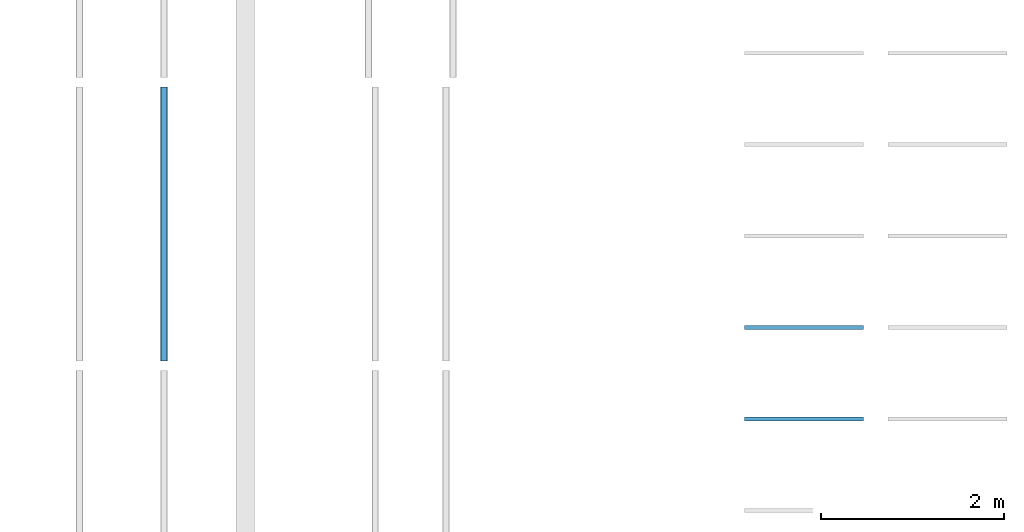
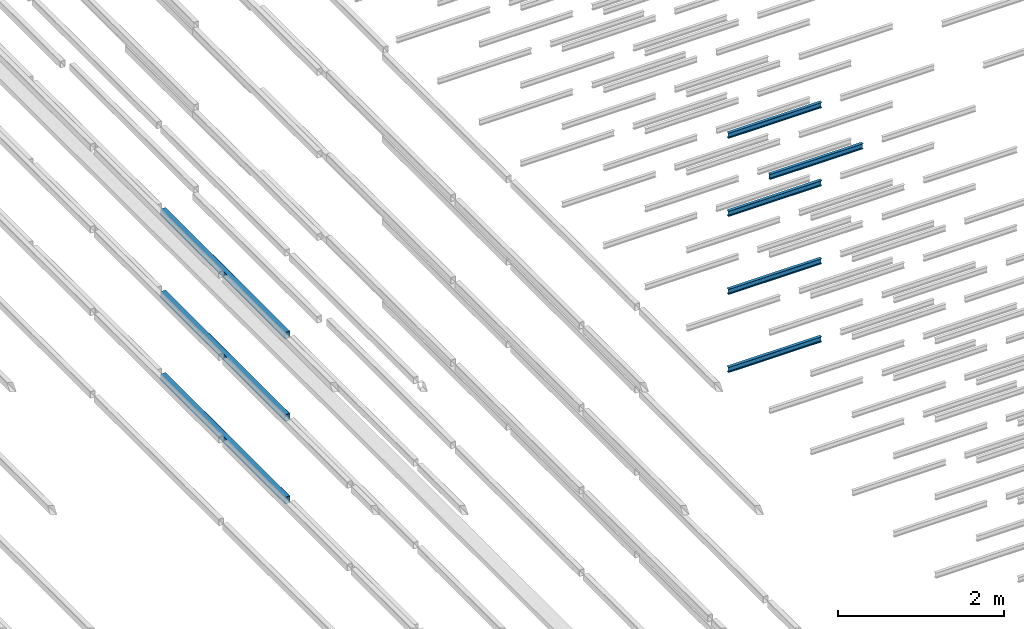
# One storey, part 91 of 290: 8 beams.
"""IFC2X3 building model written with IfcOpenShell, lengths in metres."""

from ifc_helpers import new_model, entity, si_unit, converted_unit, derived_unit, direction, frame, frame_2d, origin, place, context, subcontext, project, spatial, polyline, circle_curve, parameter, trimmed, segment, composite_curve, outline, extrude, material, type_object, element, save


model = new_model("IFC2X3")

# Units and contexts
model_context = context("Model", 3, precision=1e-05, world=origin(), true_north=direction((6.12303176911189e-17, 1.0)))
body_context = subcontext(model_context, "Body", "Model", "MODEL_VIEW")
ifc_project = project(units=[si_unit("LENGTHUNIT", "METRE"), si_unit("AREAUNIT", "SQUARE_METRE"), si_unit("VOLUMEUNIT", "CUBIC_METRE"), converted_unit("PLANEANGLEUNIT", "DEGREE", entity("IfcRatioMeasure", 0.0174532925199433), si_unit("PLANEANGLEUNIT", "RADIAN"), dimensions=[0, 0, 0, 0, 0, 0, 0]), si_unit("MASSUNIT", "GRAM", prefix="KILO"), derived_unit("MASSDENSITYUNIT", [(si_unit("MASSUNIT", "GRAM", prefix="KILO"), 1), (si_unit("LENGTHUNIT", "METRE"), -3)]), derived_unit("MOMENTOFINERTIAUNIT", [(si_unit("LENGTHUNIT", "METRE"), 4)]), si_unit("TIMEUNIT", "SECOND"), si_unit("FREQUENCYUNIT", "HERTZ"), si_unit("THERMODYNAMICTEMPERATUREUNIT", "DEGREE_CELSIUS"), derived_unit("THERMALTRANSMITTANCEUNIT", [(si_unit("MASSUNIT", "GRAM", prefix="KILO"), 1), (si_unit("THERMODYNAMICTEMPERATUREUNIT", "KELVIN"), -1), (si_unit("TIMEUNIT", "SECOND"), -3)]), derived_unit("VOLUMETRICFLOWRATEUNIT", [(si_unit("LENGTHUNIT", "METRE"), 3), (si_unit("TIMEUNIT", "SECOND"), -1)]), si_unit("ELECTRICCURRENTUNIT", "AMPERE"), si_unit("ELECTRICVOLTAGEUNIT", "VOLT"), si_unit("POWERUNIT", "WATT"), si_unit("FORCEUNIT", "NEWTON", prefix="KILO"), si_unit("ILLUMINANCEUNIT", "LUX"), si_unit("LUMINOUSFLUXUNIT", "LUMEN"), si_unit("LUMINOUSINTENSITYUNIT", "CANDELA"), derived_unit("USERDEFINED", [(si_unit("MASSUNIT", "GRAM", prefix="KILO"), -1), (si_unit("LENGTHUNIT", "METRE"), -2), (si_unit("TIMEUNIT", "SECOND"), 3), (si_unit("LUMINOUSFLUXUNIT", "LUMEN"), 1)]), derived_unit("LINEARVELOCITYUNIT", [(si_unit("LENGTHUNIT", "METRE"), 1), (si_unit("TIMEUNIT", "SECOND"), -1)]), si_unit("PRESSUREUNIT", "PASCAL"), derived_unit("USERDEFINED", [(si_unit("LENGTHUNIT", "METRE"), -2), (si_unit("MASSUNIT", "GRAM", prefix="KILO"), 1), (si_unit("TIMEUNIT", "SECOND"), -2)]), derived_unit("LINEARFORCEUNIT", [(si_unit("MASSUNIT", "GRAM", prefix="KILO"), 1), (si_unit("LENGTHUNIT", "METRE"), 1), (si_unit("TIMEUNIT", "SECOND"), -2), (si_unit("LENGTHUNIT", "METRE"), -1)]), derived_unit("PLANARFORCEUNIT", [(si_unit("MASSUNIT", "GRAM", prefix="KILO"), 1), (si_unit("LENGTHUNIT", "METRE"), 1), (si_unit("TIMEUNIT", "SECOND"), -2), (si_unit("LENGTHUNIT", "METRE"), -2)])], contexts=[model_context])

# Site, building, storey
site_placement = place(None, origin())
site = spatial("IfcSite", under=ifc_project, at=site_placement, Name="Default", CompositionType="ELEMENT")
building_placement = place(site_placement, origin())
building = spatial("IfcBuilding", under=site, at=building_placement, CompositionType="ELEMENT")
storey_placement = place(building_placement, frame((0.0, 0.0, 4.0)))
storey = spatial("IfcBuildingStorey", under=building, at=storey_placement, Name="01_OG", CompositionType="ELEMENT", Elevation=4.0)

# Beams
ifc_material_1 = material(Name="Metall - Baustahl S235 blau")
beam_type_1 = type_object("IfcBeamType", Name="RHS Träger (EN 10219-2):RHS 100 x 75 x 5", PredefinedType="NOTDEFINED")
beam_1_placement = place(storey_placement, frame((-178.465111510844, 42.6480889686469, -1.2), z_axis=(0.0, 0.0, 1.0), x_axis=(0.0, 1.0, 0.0)))
element("IfcBeam", 1, at=beam_1_placement, inside=storey, type_object=beam_type_1, material=ifc_material_1, Name="RHS Träger (EN 10219-2):RHS 100 x 75 x 5", ObjectType="RHS Träger (EN 10219-2):RHS 100 x 75 x 5", context=body_context, shape_type="SweptSolid", body=[
    extrude(outline(composite_curve([segment(polyline([(-0.0400000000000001, -0.0374999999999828), (0.0400000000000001, -0.0374999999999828)]), True, "CONTINUOUS"), segment(trimmed(circle_curve(frame_2d((0.0400000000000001, -0.0274999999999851), x_axis=(0.0, 1.0)), 0.01), [parameter(180.0)], [parameter(270.0)], True, "PARAMETER"), True, "CONTINUOUS"), segment(polyline([(0.05, -0.0274999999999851), (0.05, 0.0274999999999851)]), True, "CONTINUOUS"), segment(trimmed(circle_curve(frame_2d((0.0400000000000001, 0.0274999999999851), x_axis=(0.0, 1.0)), 0.01), [parameter(270.0)], [parameter(4.07110999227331e-13)], True, "PARAMETER"), True, "CONTINUOUS"), segment(polyline([(0.0400000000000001, 0.0375000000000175), (-0.0400000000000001, 0.0375000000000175)]), True, "CONTINUOUS"), segment(trimmed(circle_curve(frame_2d((-0.0400000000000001, 0.0274999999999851), x_axis=(0.0, 1.0)), 0.01), [parameter(360.0)], [parameter(90.0000000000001)], True, "PARAMETER"), True, "CONTINUOUS"), segment(polyline([(-0.05, 0.0274999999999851), (-0.05, -0.0274999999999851)]), True, "CONTINUOUS"), segment(trimmed(circle_curve(frame_2d((-0.0400000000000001, -0.0274999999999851), x_axis=(0.0, 1.0)), 0.01), [parameter(90.0000000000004)], [parameter(180.0)], True, "PARAMETER"), True, "CONTINUOUS")], self_intersect=False), holes=[composite_curve([segment(trimmed(circle_curve(frame_2d((-0.0400000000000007, 0.0274999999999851), x_axis=(0.0, 1.0)), 0.005), [parameter(360.0)], [parameter(89.9999999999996)], True, "PARAMETER"), False, "CONTINUOUS"), segment(polyline([(-0.0400000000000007, 0.0325000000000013), (0.039999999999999, 0.0325000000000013)]), True, "CONTINUOUS"), segment(trimmed(circle_curve(frame_2d((0.039999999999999, 0.0274999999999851), x_axis=(0.0, 1.0)), 0.005), [parameter(270.0)], [parameter(0.0)], True, "PARAMETER"), False, "CONTINUOUS"), segment(polyline([(0.044999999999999, 0.0274999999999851), (0.044999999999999, -0.0274999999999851)]), True, "CONTINUOUS"), segment(trimmed(circle_curve(frame_2d((0.039999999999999, -0.0274999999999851), x_axis=(0.0, 1.0)), 0.005), [parameter(180.0)], [parameter(269.999999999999)], True, "PARAMETER"), False, "CONTINUOUS"), segment(polyline([(0.039999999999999, -0.0325000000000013), (-0.0400000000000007, -0.0325000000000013)]), True, "CONTINUOUS"), segment(trimmed(circle_curve(frame_2d((-0.0400000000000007, -0.0274999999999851), x_axis=(0.0, 1.0)), 0.005), [parameter(90.0000000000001)], [parameter(180.0)], True, "PARAMETER"), False, "CONTINUOUS"), segment(polyline([(-0.0450000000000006, -0.0274999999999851), (-0.0450000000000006, 0.0274999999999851)]), True, "CONTINUOUS")], self_intersect=False)]), frame((0.000100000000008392, -0.0375000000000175, -0.0500000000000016), z_axis=(1.0, 0.0, 0.0), x_axis=(0.0, 0.0, -1.0)), (0.0, 0.0, 1.0), 2.99979999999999),
])
beam_2_placement = place(storey_placement, frame((-178.465111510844, 42.6480889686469, 0.0150000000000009), z_axis=(0.0, 0.0, 1.0), x_axis=(0.0, 1.0, 0.0)))
element("IfcBeam", 2, at=beam_2_placement, inside=storey, type_object=beam_type_1, material=ifc_material_1, Name="RHS Träger (EN 10219-2):RHS 100 x 75 x 5", ObjectType="RHS Träger (EN 10219-2):RHS 100 x 75 x 5", context=body_context, shape_type="SweptSolid", body=[
    extrude(outline(composite_curve([segment(polyline([(-0.0400000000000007, -0.0374999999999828), (0.0399999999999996, -0.0374999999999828)]), True, "CONTINUOUS"), segment(trimmed(circle_curve(frame_2d((0.0399999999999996, -0.0274999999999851), x_axis=(0.0, 1.0)), 0.01), [parameter(180.0)], [parameter(270.0)], True, "PARAMETER"), True, "CONTINUOUS"), segment(polyline([(0.0499999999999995, -0.0274999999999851), (0.0499999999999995, 0.0274999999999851)]), True, "CONTINUOUS"), segment(trimmed(circle_curve(frame_2d((0.0399999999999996, 0.0274999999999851), x_axis=(0.0, 1.0)), 0.01), [parameter(270.0)], [parameter(4.07110999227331e-13)], True, "PARAMETER"), True, "CONTINUOUS"), segment(polyline([(0.0399999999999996, 0.0375000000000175), (-0.0400000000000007, 0.0375000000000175)]), True, "CONTINUOUS"), segment(trimmed(circle_curve(frame_2d((-0.0400000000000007, 0.0274999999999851), x_axis=(0.0, 1.0)), 0.01), [parameter(360.0)], [parameter(90.0000000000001)], True, "PARAMETER"), True, "CONTINUOUS"), segment(polyline([(-0.0500000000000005, 0.0274999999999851), (-0.0500000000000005, -0.0274999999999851)]), True, "CONTINUOUS"), segment(trimmed(circle_curve(frame_2d((-0.0400000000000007, -0.0274999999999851), x_axis=(0.0, 1.0)), 0.01), [parameter(90.0000000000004)], [parameter(180.0)], True, "PARAMETER"), True, "CONTINUOUS")], self_intersect=False), holes=[composite_curve([segment(trimmed(circle_curve(frame_2d((-0.0400000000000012, 0.0274999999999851), x_axis=(0.0, 1.0)), 0.005), [parameter(360.0)], [parameter(89.9999999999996)], True, "PARAMETER"), False, "CONTINUOUS"), segment(polyline([(-0.0400000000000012, 0.0325000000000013), (0.0399999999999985, 0.0325000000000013)]), True, "CONTINUOUS"), segment(trimmed(circle_curve(frame_2d((0.0399999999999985, 0.0274999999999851), x_axis=(0.0, 1.0)), 0.005), [parameter(270.0)], [parameter(0.0)], True, "PARAMETER"), False, "CONTINUOUS"), segment(polyline([(0.0449999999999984, 0.0274999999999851), (0.0449999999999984, -0.0274999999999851)]), True, "CONTINUOUS"), segment(trimmed(circle_curve(frame_2d((0.0399999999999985, -0.0274999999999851), x_axis=(0.0, 1.0)), 0.005), [parameter(180.0)], [parameter(269.999999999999)], True, "PARAMETER"), False, "CONTINUOUS"), segment(polyline([(0.0399999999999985, -0.0325000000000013), (-0.0400000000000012, -0.0325000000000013)]), True, "CONTINUOUS"), segment(trimmed(circle_curve(frame_2d((-0.0400000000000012, -0.0274999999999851), x_axis=(0.0, 1.0)), 0.005), [parameter(90.0000000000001)], [parameter(180.0)], True, "PARAMETER"), False, "CONTINUOUS"), segment(polyline([(-0.0450000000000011, -0.0274999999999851), (-0.0450000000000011, 0.0274999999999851)]), True, "CONTINUOUS")], self_intersect=False)]), frame((0.000100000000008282, -0.0375000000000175, -0.0500000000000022), z_axis=(1.0, 0.0, 0.0), x_axis=(0.0, 0.0, -1.0)), (0.0, 0.0, 1.0), 2.99979999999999),
])
beam_3_placement = place(storey_placement, frame((-178.465111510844, 42.6480889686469, 1.23), z_axis=(0.0, 0.0, 1.0), x_axis=(0.0, 1.0, 0.0)))
element("IfcBeam", 3, at=beam_3_placement, inside=storey, type_object=beam_type_1, material=ifc_material_1, Name="RHS Träger (EN 10219-2):RHS 100 x 75 x 5", ObjectType="RHS Träger (EN 10219-2):RHS 100 x 75 x 5", context=body_context, shape_type="SweptSolid", body=[
    extrude(outline(composite_curve([segment(polyline([(-0.0399999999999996, -0.0374999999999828), (0.0399999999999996, -0.0374999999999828)]), True, "CONTINUOUS"), segment(trimmed(circle_curve(frame_2d((0.0399999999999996, -0.0274999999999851), x_axis=(0.0, 1.0)), 0.01), [parameter(180.0)], [parameter(270.0)], True, "PARAMETER"), True, "CONTINUOUS"), segment(polyline([(0.0500000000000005, -0.0274999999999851), (0.0500000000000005, 0.0274999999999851)]), True, "CONTINUOUS"), segment(trimmed(circle_curve(frame_2d((0.0399999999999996, 0.0274999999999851), x_axis=(0.0, 1.0)), 0.01), [parameter(270.0)], [parameter(4.07110999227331e-13)], True, "PARAMETER"), True, "CONTINUOUS"), segment(polyline([(0.0399999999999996, 0.0375000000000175), (-0.0399999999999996, 0.0375000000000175)]), True, "CONTINUOUS"), segment(trimmed(circle_curve(frame_2d((-0.0399999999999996, 0.0274999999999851), x_axis=(0.0, 1.0)), 0.01), [parameter(360.0)], [parameter(90.0000000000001)], True, "PARAMETER"), True, "CONTINUOUS"), segment(polyline([(-0.0499999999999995, 0.0274999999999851), (-0.0499999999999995, -0.0274999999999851)]), True, "CONTINUOUS"), segment(trimmed(circle_curve(frame_2d((-0.0399999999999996, -0.0274999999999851), x_axis=(0.0, 1.0)), 0.01), [parameter(90.0000000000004)], [parameter(180.0)], True, "PARAMETER"), True, "CONTINUOUS")], self_intersect=False), holes=[composite_curve([segment(trimmed(circle_curve(frame_2d((-0.0400000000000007, 0.0274999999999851), x_axis=(0.0, 1.0)), 0.005), [parameter(360.0)], [parameter(89.9999999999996)], True, "PARAMETER"), False, "CONTINUOUS"), segment(polyline([(-0.0400000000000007, 0.0325000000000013), (0.0399999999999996, 0.0325000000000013)]), True, "CONTINUOUS"), segment(trimmed(circle_curve(frame_2d((0.0399999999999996, 0.0274999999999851), x_axis=(0.0, 1.0)), 0.005), [parameter(270.0)], [parameter(0.0)], True, "PARAMETER"), False, "CONTINUOUS"), segment(polyline([(0.0449999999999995, 0.0274999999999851), (0.0449999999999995, -0.0274999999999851)]), True, "CONTINUOUS"), segment(trimmed(circle_curve(frame_2d((0.0399999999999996, -0.0274999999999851), x_axis=(0.0, 1.0)), 0.005), [parameter(180.0)], [parameter(269.999999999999)], True, "PARAMETER"), False, "CONTINUOUS"), segment(polyline([(0.0399999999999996, -0.0325000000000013), (-0.0400000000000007, -0.0325000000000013)]), True, "CONTINUOUS"), segment(trimmed(circle_curve(frame_2d((-0.0400000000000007, -0.0274999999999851), x_axis=(0.0, 1.0)), 0.005), [parameter(90.0000000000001)], [parameter(180.0)], True, "PARAMETER"), False, "CONTINUOUS"), segment(polyline([(-0.0450000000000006, -0.0274999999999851), (-0.0450000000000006, 0.0274999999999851)]), True, "CONTINUOUS")], self_intersect=False)]), frame((0.000100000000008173, -0.0375000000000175, -0.0500000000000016), z_axis=(1.0, 0.0, 0.0), x_axis=(0.0, 0.0, -1.0)), (0.0, 0.0, 1.0), 2.99979999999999),
])
ifc_material_2 = material(Name="Metall - Baustahl S235")
beam_type_2 = type_object("IfcBeamType", Name="IPN Träger:IPN 80", PredefinedType="NOTDEFINED")
beam_4_placement = place(storey_placement, frame((-170.780111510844, 43.0365889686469, -1.73), z_axis=(0.0, 0.0, 1.0), x_axis=(-1.0, 0.0, 0.0)))
element("IfcBeam", 4, at=beam_4_placement, inside=storey, type_object=beam_type_2, material=ifc_material_2, Name="IPN Träger:IPN 80", ObjectType="IPN Träger:IPN 80", context=body_context, shape_type="SweptSolid", body=[
    extrude(outline(composite_curve([segment(polyline([(0.0375704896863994, -0.0209999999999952), (0.0399999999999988, -0.0209999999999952)]), True, "CONTINUOUS"), segment(polyline([(0.0399999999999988, -0.0209999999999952), (0.0399999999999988, 0.0210000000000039)]), True, "CONTINUOUS"), segment(polyline([(0.0399999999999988, 0.0210000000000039), (0.0375704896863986, 0.0210000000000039)]), True, "CONTINUOUS"), segment(trimmed(circle_curve(frame_2d((0.0375704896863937, 0.0187000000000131), x_axis=(0.0, 1.0)), 0.0022999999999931), [parameter(0.0)], [parameter(82.030000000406)], True, "PARAMETER"), True, "CONTINUOUS"), segment(polyline([(0.0352927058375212, 0.0190189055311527), (0.0333732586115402, 0.0053092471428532)]), True, "CONTINUOUS"), segment(trimmed(circle_curve(frame_2d((0.0295109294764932, 0.005850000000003), x_axis=(0.99034080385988, -0.138654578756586)), 0.0038999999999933), [parameter(277.96999999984)], [parameter(0.0)], True, "PARAMETER"), False, "CONTINUOUS"), segment(polyline([(0.0295109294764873, 0.00195000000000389), (-0.0295109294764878, 0.00195000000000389)]), True, "CONTINUOUS"), segment(trimmed(circle_curve(frame_2d((-0.0295109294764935, 0.005850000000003), x_axis=(0.0, -1.0)), 0.0038999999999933), [parameter(277.96999999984)], [parameter(0.0)], True, "PARAMETER"), False, "CONTINUOUS"), segment(polyline([(-0.033373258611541, 0.0053092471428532), (-0.0352927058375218, 0.0190189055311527)]), True, "CONTINUOUS"), segment(trimmed(circle_curve(frame_2d((-0.0375704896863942, 0.0187000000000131), x_axis=(0.990340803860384, 0.138654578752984)), 0.00229999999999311), [parameter(0.0)], [parameter(82.030000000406)], True, "PARAMETER"), True, "CONTINUOUS"), segment(polyline([(-0.0375704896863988, 0.0210000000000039), (-0.0400000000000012, 0.0210000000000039)]), True, "CONTINUOUS"), segment(polyline([(-0.0400000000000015, 0.0210000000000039), (-0.0400000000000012, -0.0209999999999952)]), True, "CONTINUOUS"), segment(polyline([(-0.0400000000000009, -0.0209999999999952), (-0.0375704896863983, -0.0209999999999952)]), True, "CONTINUOUS"), segment(trimmed(circle_curve(frame_2d((-0.0375704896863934, -0.0186999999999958), x_axis=(0.0, -1.0)), 0.0022999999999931), [parameter(0.0)], [parameter(82.030000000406)], True, "PARAMETER"), True, "CONTINUOUS"), segment(polyline([(-0.0352927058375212, -0.0190189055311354), (-0.0333732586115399, -0.00530924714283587)]), True, "CONTINUOUS"), segment(trimmed(circle_curve(frame_2d((-0.0295109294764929, -0.00584999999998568), x_axis=(-0.99034080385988, 0.138654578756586)), 0.0038999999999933), [parameter(277.96999999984)], [parameter(0.0)], True, "PARAMETER"), False, "CONTINUOUS"), segment(polyline([(-0.0295109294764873, -0.00194999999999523), (0.0295109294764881, -0.00194999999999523)]), True, "CONTINUOUS"), segment(trimmed(circle_curve(frame_2d((0.029510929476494, -0.00584999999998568), x_axis=(0.0, 1.0)), 0.00389999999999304), [parameter(277.969999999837)], [parameter(0.0)], True, "PARAMETER"), False, "CONTINUOUS"), segment(polyline([(0.033373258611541, -0.00530924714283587), (0.0352927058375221, -0.0190189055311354)]), True, "CONTINUOUS"), segment(trimmed(circle_curve(frame_2d((0.0375704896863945, -0.0186999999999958), x_axis=(-0.990340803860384, -0.138654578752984)), 0.0022999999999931), [parameter(0.0)], [parameter(82.030000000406)], True, "PARAMETER"), True, "CONTINUOUS")], self_intersect=False)), frame((0.00010000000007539, 0.0209999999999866, -0.0400000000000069), z_axis=(1.0, 0.0, 0.0), x_axis=(0.0, 0.0, -1.0)), (0.0, 0.0, 1.0), 1.29990000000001),
])
beam_5_placement = place(storey_placement, frame((-170.780111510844, 43.0365889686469, -0.579999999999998), z_axis=(0.0, 0.0, 1.0), x_axis=(-1.0, 0.0, 0.0)))
element("IfcBeam", 5, at=beam_5_placement, inside=storey, type_object=beam_type_2, material=ifc_material_2, Name="IPN Träger:IPN 80", ObjectType="IPN Träger:IPN 80", context=body_context, shape_type="SweptSolid", body=[
    extrude(outline(composite_curve([segment(polyline([(0.0375704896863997, -0.0209999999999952), (0.039999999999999, -0.0209999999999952)]), True, "CONTINUOUS"), segment(polyline([(0.039999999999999, -0.0209999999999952), (0.039999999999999, 0.0210000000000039)]), True, "CONTINUOUS"), segment(polyline([(0.039999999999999, 0.0210000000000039), (0.0375704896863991, 0.0210000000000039)]), True, "CONTINUOUS"), segment(trimmed(circle_curve(frame_2d((0.0375704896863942, 0.0187000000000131), x_axis=(0.0, 1.0)), 0.00229999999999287), [parameter(0.0)], [parameter(82.0300000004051)], True, "PARAMETER"), True, "CONTINUOUS"), segment(polyline([(0.0352927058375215, 0.0190189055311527), (0.0333732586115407, 0.0053092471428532)]), True, "CONTINUOUS"), segment(trimmed(circle_curve(frame_2d((0.029510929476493, 0.005850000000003), x_axis=(0.99034080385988, -0.138654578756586)), 0.00389999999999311), [parameter(277.969999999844)], [parameter(0.0)], True, "PARAMETER"), False, "CONTINUOUS"), segment(polyline([(0.0295109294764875, 0.00195000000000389), (-0.0295109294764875, 0.00195000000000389)]), True, "CONTINUOUS"), segment(trimmed(circle_curve(frame_2d((-0.0295109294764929, 0.005850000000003), x_axis=(0.0, -1.0)), 0.00389999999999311), [parameter(277.969999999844)], [parameter(0.0)], True, "PARAMETER"), False, "CONTINUOUS"), segment(polyline([(-0.0333732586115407, 0.0053092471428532), (-0.0352927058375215, 0.0190189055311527)]), True, "CONTINUOUS"), segment(trimmed(circle_curve(frame_2d((-0.0375704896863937, 0.0187000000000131), x_axis=(0.990340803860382, 0.138654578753)), 0.00229999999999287), [parameter(0.0)], [parameter(82.0300000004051)], True, "PARAMETER"), True, "CONTINUOUS"), segment(polyline([(-0.0375704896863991, 0.0210000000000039), (-0.0400000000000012, 0.0210000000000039)]), True, "CONTINUOUS"), segment(polyline([(-0.0400000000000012, 0.0210000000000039), (-0.0400000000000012, -0.0209999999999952)]), True, "CONTINUOUS"), segment(polyline([(-0.0400000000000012, -0.0209999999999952), (-0.037570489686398, -0.0209999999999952)]), True, "CONTINUOUS"), segment(trimmed(circle_curve(frame_2d((-0.0375704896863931, -0.0186999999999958), x_axis=(0.0, -1.0)), 0.00229999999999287), [parameter(0.0)], [parameter(82.0300000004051)], True, "PARAMETER"), True, "CONTINUOUS"), segment(polyline([(-0.035292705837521, -0.0190189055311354), (-0.0333732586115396, -0.00530924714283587)]), True, "CONTINUOUS"), segment(trimmed(circle_curve(frame_2d((-0.0295109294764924, -0.00584999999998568), x_axis=(-0.99034080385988, 0.138654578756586)), 0.00389999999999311), [parameter(277.969999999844)], [parameter(0.0)], True, "PARAMETER"), False, "CONTINUOUS"), segment(polyline([(-0.029510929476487, -0.00194999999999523), (0.0295109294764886, -0.00194999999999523)]), True, "CONTINUOUS"), segment(trimmed(circle_curve(frame_2d((0.029510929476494, -0.00584999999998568), x_axis=(0.0, 1.0)), 0.00389999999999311), [parameter(277.969999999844)], [parameter(0.0)], True, "PARAMETER"), False, "CONTINUOUS"), segment(polyline([(0.0333732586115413, -0.00530924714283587), (0.0352927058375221, -0.0190189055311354)]), True, "CONTINUOUS"), segment(trimmed(circle_curve(frame_2d((0.0375704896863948, -0.0186999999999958), x_axis=(-0.990340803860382, -0.138654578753)), 0.00229999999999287), [parameter(0.0)], [parameter(82.0300000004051)], True, "PARAMETER"), True, "CONTINUOUS")], self_intersect=False)), frame((0.000100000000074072, 0.0209999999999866, -0.0400000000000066), z_axis=(1.0, 0.0, 0.0), x_axis=(0.0, 0.0, -1.0)), (0.0, 0.0, 1.0), 1.29990000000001),
])
beam_6_placement = place(storey_placement, frame((-170.780111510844, 43.0365889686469, 0.570000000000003), z_axis=(0.0, 0.0, 1.0), x_axis=(-1.0, 0.0, 0.0)))
element("IfcBeam", 6, at=beam_6_placement, inside=storey, type_object=beam_type_2, material=ifc_material_2, Name="IPN Träger:IPN 80", ObjectType="IPN Träger:IPN 80", context=body_context, shape_type="SweptSolid", body=[
    extrude(outline(composite_curve([segment(polyline([(0.0375704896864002, -0.0209999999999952), (0.0399999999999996, -0.0209999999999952)]), True, "CONTINUOUS"), segment(polyline([(0.0399999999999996, -0.0209999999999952), (0.0399999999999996, 0.0210000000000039)]), True, "CONTINUOUS"), segment(polyline([(0.0399999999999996, 0.0210000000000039), (0.0375704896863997, 0.0210000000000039)]), True, "CONTINUOUS"), segment(trimmed(circle_curve(frame_2d((0.0375704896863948, 0.0187000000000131), x_axis=(0.0, 1.0)), 0.00229999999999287), [parameter(0.0)], [parameter(82.0300000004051)], True, "PARAMETER"), True, "CONTINUOUS"), segment(polyline([(0.0352927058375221, 0.0190189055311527), (0.0333732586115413, 0.0053092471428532)]), True, "CONTINUOUS"), segment(trimmed(circle_curve(frame_2d((0.0295109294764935, 0.005850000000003), x_axis=(0.99034080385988, -0.138654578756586)), 0.00389999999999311), [parameter(277.969999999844)], [parameter(0.0)], True, "PARAMETER"), False, "CONTINUOUS"), segment(polyline([(0.0295109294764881, 0.00195000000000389), (-0.029510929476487, 0.00195000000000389)]), True, "CONTINUOUS"), segment(trimmed(circle_curve(frame_2d((-0.0295109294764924, 0.005850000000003), x_axis=(0.0, -1.0)), 0.00389999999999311), [parameter(277.969999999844)], [parameter(0.0)], True, "PARAMETER"), False, "CONTINUOUS"), segment(polyline([(-0.0333732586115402, 0.0053092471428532), (-0.035292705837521, 0.0190189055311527)]), True, "CONTINUOUS"), segment(trimmed(circle_curve(frame_2d((-0.0375704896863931, 0.0187000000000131), x_axis=(0.990340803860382, 0.138654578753)), 0.00229999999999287), [parameter(0.0)], [parameter(82.0300000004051)], True, "PARAMETER"), True, "CONTINUOUS"), segment(polyline([(-0.0375704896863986, 0.0210000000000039), (-0.0400000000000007, 0.0210000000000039)]), True, "CONTINUOUS"), segment(polyline([(-0.0400000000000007, 0.0210000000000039), (-0.0400000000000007, -0.0209999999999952)]), True, "CONTINUOUS"), segment(polyline([(-0.0400000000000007, -0.0209999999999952), (-0.0375704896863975, -0.0209999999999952)]), True, "CONTINUOUS"), segment(trimmed(circle_curve(frame_2d((-0.0375704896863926, -0.0186999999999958), x_axis=(0.0, -1.0)), 0.00229999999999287), [parameter(0.0)], [parameter(82.0300000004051)], True, "PARAMETER"), True, "CONTINUOUS"), segment(polyline([(-0.0352927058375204, -0.0190189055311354), (-0.0333732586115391, -0.00530924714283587)]), True, "CONTINUOUS"), segment(trimmed(circle_curve(frame_2d((-0.0295109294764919, -0.00584999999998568), x_axis=(-0.99034080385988, 0.138654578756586)), 0.00389999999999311), [parameter(277.969999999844)], [parameter(0.0)], True, "PARAMETER"), False, "CONTINUOUS"), segment(polyline([(-0.0295109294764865, -0.00194999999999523), (0.0295109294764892, -0.00194999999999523)]), True, "CONTINUOUS"), segment(trimmed(circle_curve(frame_2d((0.0295109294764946, -0.00584999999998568), x_axis=(0.0, 1.0)), 0.00389999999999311), [parameter(277.969999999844)], [parameter(0.0)], True, "PARAMETER"), False, "CONTINUOUS"), segment(polyline([(0.0333732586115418, -0.00530924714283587), (0.0352927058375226, -0.0190189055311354)]), True, "CONTINUOUS"), segment(trimmed(circle_curve(frame_2d((0.0375704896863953, -0.0186999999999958), x_axis=(-0.990340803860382, -0.138654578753)), 0.00229999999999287), [parameter(0.0)], [parameter(82.0300000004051)], True, "PARAMETER"), True, "CONTINUOUS")], self_intersect=False)), frame((0.000100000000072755, 0.0209999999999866, -0.0400000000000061), z_axis=(1.0, 0.0, 0.0), x_axis=(0.0, 0.0, -1.0)), (0.0, 0.0, 1.0), 1.29990000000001),
])
beam_7_placement = place(storey_placement, frame((-170.780111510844, 43.0365889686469, 1.72), z_axis=(0.0, 0.0, 1.0), x_axis=(-1.0, 0.0, 0.0)))
element("IfcBeam", 7, at=beam_7_placement, inside=storey, type_object=beam_type_2, material=ifc_material_2, Name="IPN Träger:IPN 80", ObjectType="IPN Träger:IPN 80", context=body_context, shape_type="SweptSolid", body=[
    extrude(outline(composite_curve([segment(polyline([(0.0375704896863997, -0.0209999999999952), (0.0399999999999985, -0.0209999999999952)]), True, "CONTINUOUS"), segment(polyline([(0.0399999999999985, -0.0209999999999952), (0.0399999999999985, 0.0210000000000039)]), True, "CONTINUOUS"), segment(polyline([(0.0399999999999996, 0.0210000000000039), (0.0375704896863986, 0.0210000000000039)]), True, "CONTINUOUS"), segment(trimmed(circle_curve(frame_2d((0.0375704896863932, 0.0187000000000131), x_axis=(0.0, 1.0)), 0.0022999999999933), [parameter(0.0)], [parameter(82.0300000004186)], True, "PARAMETER"), True, "CONTINUOUS"), segment(polyline([(0.0352927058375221, 0.0190189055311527), (0.0333732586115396, 0.0053092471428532)]), True, "CONTINUOUS"), segment(trimmed(circle_curve(frame_2d((0.029510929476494, 0.005850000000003), x_axis=(0.990340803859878, -0.138654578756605)), 0.00389999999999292), [parameter(277.969999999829)], [parameter(0.0)], True, "PARAMETER"), False, "CONTINUOUS"), segment(polyline([(0.0295109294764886, 0.00195000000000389), (-0.0295109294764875, 0.00195000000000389)]), True, "CONTINUOUS"), segment(trimmed(circle_curve(frame_2d((-0.029510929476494, 0.005850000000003), x_axis=(0.0, -1.0)), 0.00389999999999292), [parameter(277.969999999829)], [parameter(0.0)], True, "PARAMETER"), False, "CONTINUOUS"), segment(polyline([(-0.0333732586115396, 0.0053092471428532), (-0.0352927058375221, 0.0190189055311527)]), True, "CONTINUOUS"), segment(trimmed(circle_curve(frame_2d((-0.0375704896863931, 0.0187000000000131), x_axis=(0.990340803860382, 0.138654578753)), 0.0022999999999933), [parameter(0.0)], [parameter(82.0300000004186)], True, "PARAMETER"), True, "CONTINUOUS"), segment(polyline([(-0.0375704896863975, 0.0210000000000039), (-0.0400000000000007, 0.0210000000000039)]), True, "CONTINUOUS"), segment(polyline([(-0.0400000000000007, 0.0210000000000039), (-0.0400000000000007, -0.0209999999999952)]), True, "CONTINUOUS"), segment(polyline([(-0.0400000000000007, -0.0209999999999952), (-0.0375704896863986, -0.0209999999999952)]), True, "CONTINUOUS"), segment(trimmed(circle_curve(frame_2d((-0.0375704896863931, -0.0186999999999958), x_axis=(0.0, -1.0)), 0.0022999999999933), [parameter(0.0)], [parameter(82.0300000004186)], True, "PARAMETER"), True, "CONTINUOUS"), segment(polyline([(-0.035292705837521, -0.0190189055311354), (-0.0333732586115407, -0.00530924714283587)]), True, "CONTINUOUS"), segment(trimmed(circle_curve(frame_2d((-0.029510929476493, -0.00584999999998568), x_axis=(-0.990340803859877, 0.138654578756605)), 0.00389999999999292), [parameter(277.969999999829)], [parameter(0.0)], True, "PARAMETER"), False, "CONTINUOUS"), segment(polyline([(-0.0295109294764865, -0.00194999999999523), (0.0295109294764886, -0.00194999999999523)]), True, "CONTINUOUS"), segment(trimmed(circle_curve(frame_2d((0.0295109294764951, -0.00584999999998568), x_axis=(0.0, 1.0)), 0.00389999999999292), [parameter(277.969999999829)], [parameter(0.0)], True, "PARAMETER"), False, "CONTINUOUS"), segment(polyline([(0.0333732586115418, -0.00530924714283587), (0.0352927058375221, -0.0190189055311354)]), True, "CONTINUOUS"), segment(trimmed(circle_curve(frame_2d((0.0375704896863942, -0.0186999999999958), x_axis=(-0.990340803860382, -0.138654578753)), 0.0022999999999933), [parameter(0.0)], [parameter(82.0300000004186)], True, "PARAMETER"), True, "CONTINUOUS")], self_intersect=False)), frame((0.000100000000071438, 0.0209999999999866, -0.040000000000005), z_axis=(1.0, 0.0, 0.0), x_axis=(0.0, 0.0, -1.0)), (0.0, 0.0, 1.0), 1.29990000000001),
])
beam_8_placement = place(storey_placement, frame((-170.780111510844, 42.036588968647, 1.72), z_axis=(0.0, 0.0, 1.0), x_axis=(-1.0, 0.0, 0.0)))
element("IfcBeam", 8, at=beam_8_placement, inside=storey, type_object=beam_type_2, material=ifc_material_2, Name="IPN Träger:IPN 80", ObjectType="IPN Träger:IPN 80", context=body_context, shape_type="SweptSolid", body=[
    extrude(outline(composite_curve([segment(polyline([(0.0375704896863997, -0.0210000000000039), (0.0399999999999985, -0.0210000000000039)]), True, "CONTINUOUS"), segment(polyline([(0.0399999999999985, -0.0210000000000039), (0.0399999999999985, 0.0209999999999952)]), True, "CONTINUOUS"), segment(polyline([(0.0399999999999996, 0.0209999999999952), (0.0375704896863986, 0.0209999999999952)]), True, "CONTINUOUS"), segment(trimmed(circle_curve(frame_2d((0.0375704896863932, 0.0187000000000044), x_axis=(0.0, 1.0)), 0.0022999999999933), [parameter(0.0)], [parameter(82.0300000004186)], True, "PARAMETER"), True, "CONTINUOUS"), segment(polyline([(0.0352927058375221, 0.019018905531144), (0.0333732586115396, 0.00530924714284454)]), True, "CONTINUOUS"), segment(trimmed(circle_curve(frame_2d((0.029510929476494, 0.00584999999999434), x_axis=(0.990340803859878, -0.138654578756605)), 0.00389999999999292), [parameter(277.969999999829)], [parameter(0.0)], True, "PARAMETER"), False, "CONTINUOUS"), segment(polyline([(0.0295109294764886, 0.00194999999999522), (-0.0295109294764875, 0.00194999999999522)]), True, "CONTINUOUS"), segment(trimmed(circle_curve(frame_2d((-0.029510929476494, 0.00584999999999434), x_axis=(0.0, -1.0)), 0.00389999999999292), [parameter(277.969999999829)], [parameter(0.0)], True, "PARAMETER"), False, "CONTINUOUS"), segment(polyline([(-0.0333732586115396, 0.00530924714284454), (-0.0352927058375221, 0.019018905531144)]), True, "CONTINUOUS"), segment(trimmed(circle_curve(frame_2d((-0.0375704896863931, 0.0187000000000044), x_axis=(0.990340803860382, 0.138654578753)), 0.0022999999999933), [parameter(0.0)], [parameter(82.0300000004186)], True, "PARAMETER"), True, "CONTINUOUS"), segment(polyline([(-0.0375704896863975, 0.0209999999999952), (-0.0400000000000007, 0.0209999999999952)]), True, "CONTINUOUS"), segment(polyline([(-0.0400000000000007, 0.0209999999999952), (-0.0400000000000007, -0.0210000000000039)]), True, "CONTINUOUS"), segment(polyline([(-0.0400000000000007, -0.0210000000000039), (-0.0375704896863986, -0.0210000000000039)]), True, "CONTINUOUS"), segment(trimmed(circle_curve(frame_2d((-0.0375704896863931, -0.0187000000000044), x_axis=(0.0, -1.0)), 0.0022999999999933), [parameter(0.0)], [parameter(82.0300000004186)], True, "PARAMETER"), True, "CONTINUOUS"), segment(polyline([(-0.035292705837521, -0.019018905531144), (-0.0333732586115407, -0.00530924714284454)]), True, "CONTINUOUS"), segment(trimmed(circle_curve(frame_2d((-0.029510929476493, -0.00584999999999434), x_axis=(-0.990340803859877, 0.138654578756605)), 0.00389999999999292), [parameter(277.969999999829)], [parameter(0.0)], True, "PARAMETER"), False, "CONTINUOUS"), segment(polyline([(-0.0295109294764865, -0.00195000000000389), (0.0295109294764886, -0.00195000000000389)]), True, "CONTINUOUS"), segment(trimmed(circle_curve(frame_2d((0.0295109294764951, -0.00584999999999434), x_axis=(0.0, 1.0)), 0.00389999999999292), [parameter(277.969999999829)], [parameter(0.0)], True, "PARAMETER"), False, "CONTINUOUS"), segment(polyline([(0.0333732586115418, -0.00530924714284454), (0.0352927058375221, -0.019018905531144)]), True, "CONTINUOUS"), segment(trimmed(circle_curve(frame_2d((0.0375704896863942, -0.0187000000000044), x_axis=(-0.990340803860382, -0.138654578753)), 0.0022999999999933), [parameter(0.0)], [parameter(82.0300000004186)], True, "PARAMETER"), True, "CONTINUOUS")], self_intersect=False)), frame((0.000100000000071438, 0.0209999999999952, -0.040000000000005), z_axis=(1.0, 0.0, 0.0), x_axis=(0.0, 0.0, -1.0)), (0.0, 0.0, 1.0), 1.29990000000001),
])

save(model, "model.ifc")
